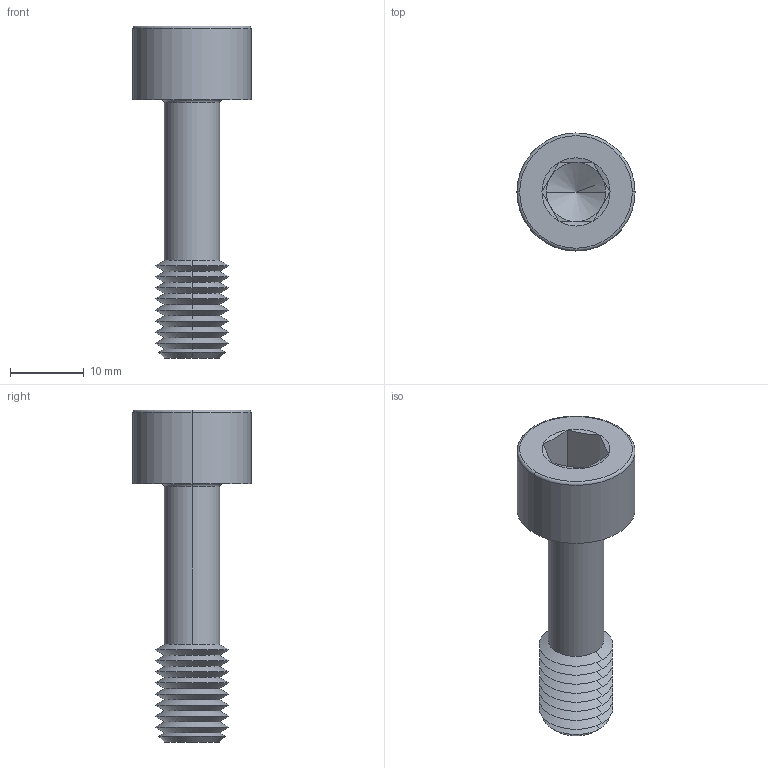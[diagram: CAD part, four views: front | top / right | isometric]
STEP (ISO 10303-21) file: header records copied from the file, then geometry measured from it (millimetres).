
FILE_DESCRIPTION (( 'STEP AP203' ), '1' );
FILE_NAME ('P0154.100-035-BL.step', '2024-06-17T11:34:07', ( '' ), ( '' ), 'SwSTEP 2.0', 'SolidWorks 2019', '' );
FILE_SCHEMA (( 'CONFIG_CONTROL_DESIGN' ));
Length unit declared in the file: millimetre
Products named in the file (1): P0154.100-035-BL
Bounding box: 16 x 16 x 45 mm (x, y, z)
Volume: 3273 mm3; surface area: 2339.4 mm2
Topology: 1 solids, 1 shells, 67 faces, 136 edges, 71 vertices
Faces by surface type: cone 44, plane 15, torus 4, cylinder 4
Entity records: 1791 total; most frequent: DIRECTION 332, CARTESIAN_POINT 303, ORIENTED_EDGE 268, AXIS2_PLACEMENT_3D 136, EDGE_CURVE 134, VERTEX_POINT 71, EDGE_LOOP 69, CIRCLE 68
